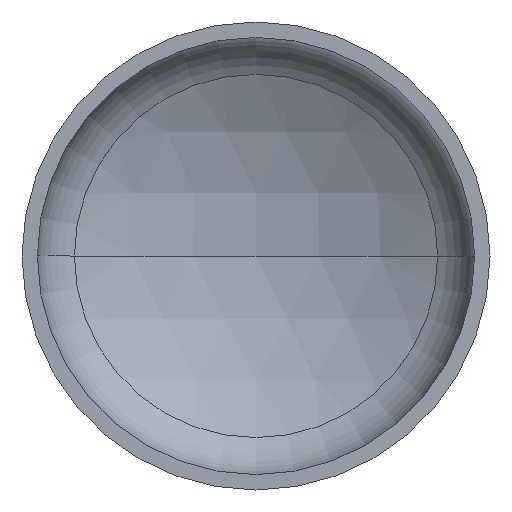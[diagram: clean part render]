
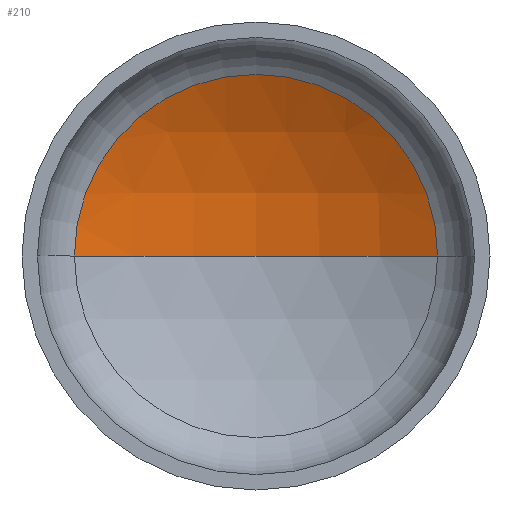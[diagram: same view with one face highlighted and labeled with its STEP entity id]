
A CAD part, front view. The second image highlights one B-rep face of the part: STEP entity #210.
In plain terms, the highlighted spherical face has radius 2240 mm.
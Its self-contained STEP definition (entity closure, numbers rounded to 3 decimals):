
#31 = AXIS2_PLACEMENT_3D ( 'NONE', #39, #65, #62 ) ;
#32 = AXIS2_PLACEMENT_3D ( 'NONE', #161, #158, #46 ) ;
#34 = AXIS2_PLACEMENT_3D ( 'NONE', #290, #288, #293 ) ;
#36 = AXIS2_PLACEMENT_3D ( 'NONE', #255, #178, #193 ) ;
#39 = CARTESIAN_POINT ( 'NONE',  ( 0., -1482.787, 0. ) ) ;
#46 = DIRECTION ( 'NONE',  ( 1., 0., 0. ) ) ;
#62 = DIRECTION ( 'NONE',  ( -1., 0., 0. ) ) ;
#65 = DIRECTION ( 'NONE',  ( 0., 0., -1. ) ) ;
#89 = VERTEX_POINT ( 'NONE', #317 ) ;
#113 = ORIENTED_EDGE ( 'NONE', *, *, #154, .T. ) ;
#154 = EDGE_CURVE ( 'NONE', #203, #89, #361, .T. ) ;
#158 = DIRECTION ( 'NONE',  ( 0., 0., 1. ) ) ;
#161 = CARTESIAN_POINT ( 'NONE',  ( 0., -1482.787, 0. ) ) ;
#162 = CARTESIAN_POINT ( 'NONE',  ( 1086.586, 476.021, 0. ) ) ;
#169 = EDGE_CURVE ( 'NONE', #188, #203, #231, .T. ) ;
#178 = DIRECTION ( 'NONE',  ( 0., -1., 0. ) ) ;
#185 = EDGE_CURVE ( 'NONE', #188, #89, #352, .T. ) ;
#188 = VERTEX_POINT ( 'NONE', #269 ) ;
#193 = DIRECTION ( 'NONE',  ( 1., 0., 0. ) ) ;
#194 = ORIENTED_EDGE ( 'NONE', *, *, #169, .T. ) ;
#203 = VERTEX_POINT ( 'NONE', #162 ) ;
#210 = ADVANCED_FACE ( 'NONE', ( #220 ), #408, .F. ) ;
#214 = ORIENTED_EDGE ( 'NONE', *, *, #185, .F. ) ;
#220 = FACE_OUTER_BOUND ( 'NONE', #227, .T. ) ;
#227 = EDGE_LOOP ( 'NONE', ( #214, #194, #113 ) ) ;
#231 = CIRCLE ( 'NONE', #34, 2240. ) ;
#255 = CARTESIAN_POINT ( 'NONE',  ( 0., 476.021, 0. ) ) ;
#269 = CARTESIAN_POINT ( 'NONE',  ( 0., 757.213, 0. ) ) ;
#288 = DIRECTION ( 'NONE',  ( 0., 0., -1. ) ) ;
#290 = CARTESIAN_POINT ( 'NONE',  ( 0., -1482.787, 0. ) ) ;
#293 = DIRECTION ( 'NONE',  ( -1., 0., 0. ) ) ;
#317 = CARTESIAN_POINT ( 'NONE',  ( -1086.586, 476.021, 0. ) ) ;
#352 = CIRCLE ( 'NONE', #32, 2240. ) ;
#361 = CIRCLE ( 'NONE', #36, 1086.586 ) ;
#408 = SPHERICAL_SURFACE ( 'NONE', #31, 2240. ) ;
